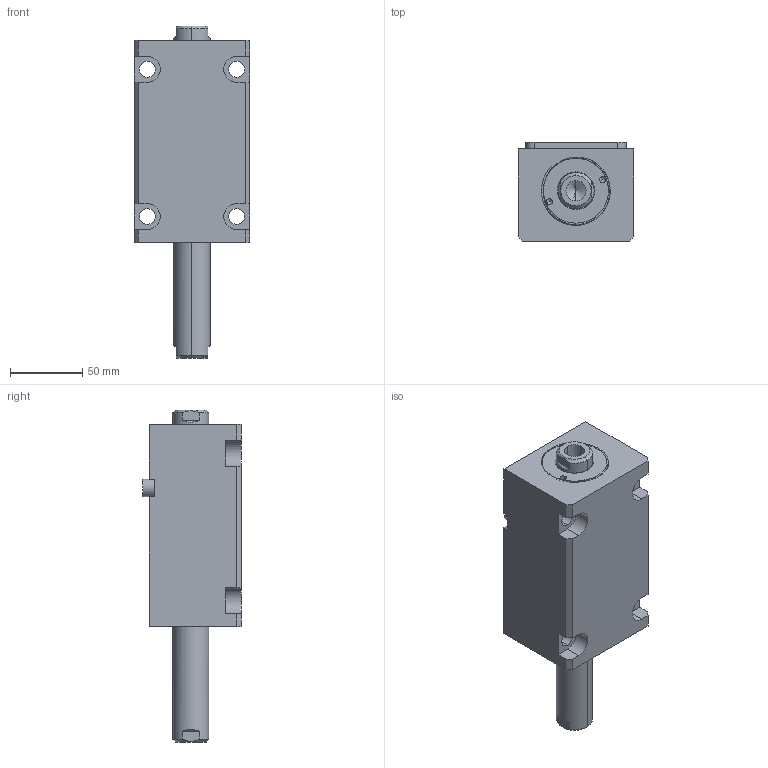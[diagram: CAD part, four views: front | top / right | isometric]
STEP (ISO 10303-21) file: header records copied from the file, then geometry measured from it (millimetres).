
FILE_DESCRIPTION (( 'STEP AP214' ), '1' );
FILE_NAME ('chtb-lwm40x70n_asm.STEP', '2018-05-30T08:24:53', ( 'Windows' ), ( 'Microsoft' ), 'SwSTEP 2.0', 'SolidWorks 2015', '' );
FILE_SCHEMA (( 'AUTOMOTIVE_DESIGN' ));
Length unit declared in the file: millimetre
Products named in the file (5): CHTB-SD40QG; CHTB-LA40PJ; CHTB-SW40X70NHSG; CHTB-LWM40X70NBT; chtb-lwm40x70n_asm
Assembly tree (4 placements, depth 2):
  chtb-lwm40x70n_asm
    CHTB-LWM40X70NBT
    CHTB-SW40X70NHSG
    CHTB-LA40PJ
    CHTB-SD40QG
Bounding box: 80 x 68.5 x 230 mm (x, y, z)
Volume: 665957.5 mm3; surface area: 111366.8 mm2
Topology: 4 solids, 4 shells, 166 faces, 450 edges, 296 vertices
Faces by surface type: cylinder 77, plane 50, bspline 14, cone 13, torus 12
Entity records: 10488 total; most frequent: CARTESIAN_POINT 6156, ORIENTED_EDGE 880, DIRECTION 821, EDGE_CURVE 440, AXIS2_PLACEMENT_3D 326, VERTEX_POINT 296, EDGE_LOOP 196, LINE 169
